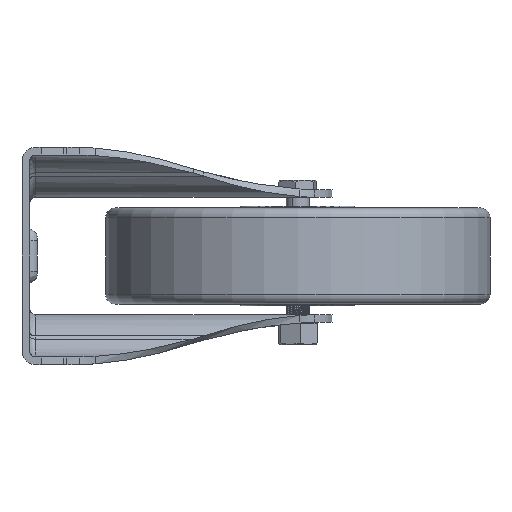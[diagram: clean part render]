
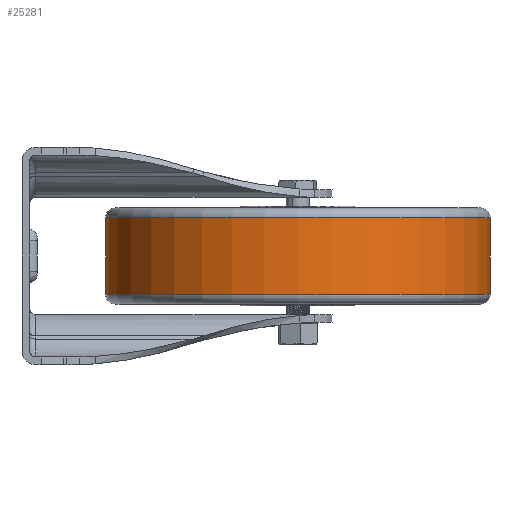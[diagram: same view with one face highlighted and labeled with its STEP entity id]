
A CAD part, left-side view. The second image highlights one B-rep face of the part: STEP entity #25281.
In plain terms, the highlighted cylindrical face has radius 100 mm (diameter 200 mm), a partial arc.
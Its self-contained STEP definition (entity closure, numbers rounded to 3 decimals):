
#1597 = DIRECTION ( 'NONE',  ( 0., -1., 0. ) ) ;
#4311 = CYLINDRICAL_SURFACE ( 'NONE', #48195, 100. ) ;
#4817 = DIRECTION ( 'NONE',  ( 0., -1., 0. ) ) ;
#5301 = CARTESIAN_POINT ( 'NONE',  ( 0., 100., 20.841 ) ) ;
#6924 = ORIENTED_EDGE ( 'NONE', *, *, #21485, .T. ) ;
#12893 = DIRECTION ( 'NONE',  ( 0., 0., 1. ) ) ;
#13823 = VERTEX_POINT ( 'NONE', #16793 ) ;
#14023 = CARTESIAN_POINT ( 'NONE',  ( 0., -100., 31.373 ) ) ;
#16480 = CIRCLE ( 'NONE', #32969, 100. ) ;
#16793 = CARTESIAN_POINT ( 'NONE',  ( 0., -100., -19.159 ) ) ;
#20494 = EDGE_CURVE ( 'NONE', #43987, #37965, #16480, .T. ) ;
#21485 = EDGE_CURVE ( 'NONE', #13823, #37965, #36373, .T. ) ;
#22303 = CARTESIAN_POINT ( 'NONE',  ( 0., -100., 20.841 ) ) ;
#22623 = ORIENTED_EDGE ( 'NONE', *, *, #30277, .F. ) ;
#25281 = ADVANCED_FACE ( 'NONE', ( #29377 ), #4311, .T. ) ;
#26275 = CIRCLE ( 'NONE', #27127, 100. ) ;
#27127 = AXIS2_PLACEMENT_3D ( 'NONE', #33659, #29972, #1597 ) ;
#27473 = EDGE_CURVE ( 'NONE', #35776, #13823, #26275, .T. ) ;
#28357 = CARTESIAN_POINT ( 'NONE',  ( 0., 100., -19.159 ) ) ;
#28595 = ORIENTED_EDGE ( 'NONE', *, *, #20494, .F. ) ;
#29011 = EDGE_LOOP ( 'NONE', ( #22623, #35454, #6924, #28595 ) ) ;
#29377 = FACE_OUTER_BOUND ( 'NONE', #29011, .T. ) ;
#29972 = DIRECTION ( 'NONE',  ( 0., 0., 1. ) ) ;
#30120 = DIRECTION ( 'NONE',  ( 0., 0., 1. ) ) ;
#30277 = EDGE_CURVE ( 'NONE', #35776, #43987, #38110, .T. ) ;
#32969 = AXIS2_PLACEMENT_3D ( 'NONE', #39101, #35081, #43123 ) ;
#33659 = CARTESIAN_POINT ( 'NONE',  ( 0., 0., -19.159 ) ) ;
#35081 = DIRECTION ( 'NONE',  ( 0., 0., 1. ) ) ;
#35454 = ORIENTED_EDGE ( 'NONE', *, *, #27473, .T. ) ;
#35776 = VERTEX_POINT ( 'NONE', #28357 ) ;
#36373 = LINE ( 'NONE', #14023, #45750 ) ;
#36860 = DIRECTION ( 'NONE',  ( 0., 0., 1. ) ) ;
#37373 = CARTESIAN_POINT ( 'NONE',  ( 0., 100., 31.373 ) ) ;
#37965 = VERTEX_POINT ( 'NONE', #22303 ) ;
#38110 = LINE ( 'NONE', #37373, #51888 ) ;
#39101 = CARTESIAN_POINT ( 'NONE',  ( 0., 0., 20.841 ) ) ;
#43123 = DIRECTION ( 'NONE',  ( 0., -1., 0. ) ) ;
#43987 = VERTEX_POINT ( 'NONE', #5301 ) ;
#44227 = CARTESIAN_POINT ( 'NONE',  ( 0., 0., 31.373 ) ) ;
#45750 = VECTOR ( 'NONE', #30120, 1000. ) ;
#48195 = AXIS2_PLACEMENT_3D ( 'NONE', #44227, #36860, #4817 ) ;
#51888 = VECTOR ( 'NONE', #12893, 1000. ) ;
